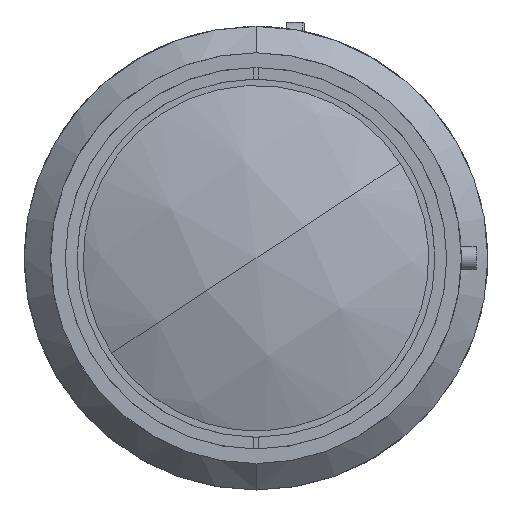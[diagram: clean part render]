
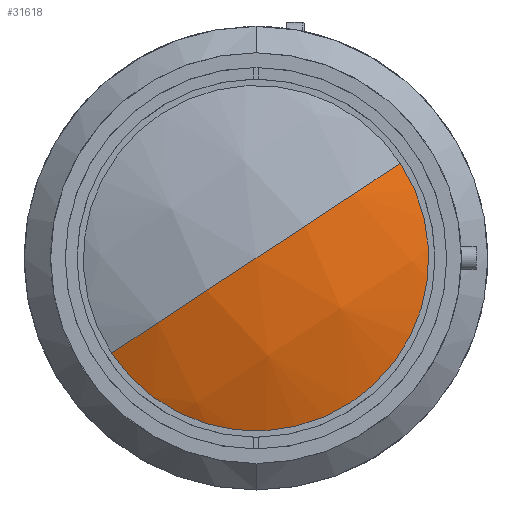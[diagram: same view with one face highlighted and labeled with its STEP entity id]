
A CAD part, left-side view. The second image highlights one B-rep face of the part: STEP entity #31618.
In plain terms, the highlighted spherical face has radius 77.627 mm.
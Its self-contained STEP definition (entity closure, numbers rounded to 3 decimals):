
#1102 = AXIS2_PLACEMENT_3D ( 'NONE', #15228, #38134, #18539 ) ;
#1106 = ORIENTED_EDGE ( 'NONE', *, *, #38791, .T. ) ;
#1253 = ORIENTED_EDGE ( 'NONE', *, *, #27639, .F. ) ;
#2253 = DIRECTION ( 'NONE',  ( 0., 0.836, -0.549 ) ) ;
#2314 = EDGE_CURVE ( 'NONE', #4496, #28689, #10935, .T. ) ;
#3455 = CIRCLE ( 'NONE', #7296, 77.627 ) ;
#4496 = VERTEX_POINT ( 'NONE', #32881 ) ;
#6474 = AXIS2_PLACEMENT_3D ( 'NONE', #41356, #41221, #41126 ) ;
#7296 = AXIS2_PLACEMENT_3D ( 'NONE', #41577, #22004, #2253 ) ;
#7762 = AXIS2_PLACEMENT_3D ( 'NONE', #10663, #33491, #33626 ) ;
#10663 = CARTESIAN_POINT ( 'NONE',  ( 78.627, 0., 0. ) ) ;
#10935 = CIRCLE ( 'NONE', #6474, 29.442 ) ;
#11186 = FACE_OUTER_BOUND ( 'NONE', #32604, .T. ) ;
#14415 = CIRCLE ( 'NONE', #1102, 77.627 ) ;
#15228 = CARTESIAN_POINT ( 'NONE',  ( 78.627, 0., 0. ) ) ;
#18539 = DIRECTION ( 'NONE',  ( 0., -0.836, 0.549 ) ) ;
#19542 = VERTEX_POINT ( 'NONE', #29952 ) ;
#22004 = DIRECTION ( 'NONE',  ( 0., -0.549, -0.836 ) ) ;
#25825 = CARTESIAN_POINT ( 'NONE',  ( 6.8, -24.603, 16.172 ) ) ;
#27639 = EDGE_CURVE ( 'NONE', #4496, #19542, #14415, .T. ) ;
#28321 = ORIENTED_EDGE ( 'NONE', *, *, #2314, .T. ) ;
#28689 = VERTEX_POINT ( 'NONE', #25825 ) ;
#28751 = SPHERICAL_SURFACE ( 'NONE', #7762, 77.627 ) ;
#29952 = CARTESIAN_POINT ( 'NONE',  ( 1., 0., 0. ) ) ;
#31618 = ADVANCED_FACE ( 'NONE', ( #11186 ), #28751, .T. ) ;
#32604 = EDGE_LOOP ( 'NONE', ( #1253, #28321, #1106 ) ) ;
#32881 = CARTESIAN_POINT ( 'NONE',  ( 6.8, 24.603, -16.172 ) ) ;
#33491 = DIRECTION ( 'NONE',  ( 0., 0.549, 0.836 ) ) ;
#33626 = DIRECTION ( 'NONE',  ( 0., -0.836, 0.549 ) ) ;
#38134 = DIRECTION ( 'NONE',  ( 0., 0.549, 0.836 ) ) ;
#38791 = EDGE_CURVE ( 'NONE', #28689, #19542, #3455, .T. ) ;
#41126 = DIRECTION ( 'NONE',  ( 0., 0., -1. ) ) ;
#41221 = DIRECTION ( 'NONE',  ( -1., 0., 0. ) ) ;
#41356 = CARTESIAN_POINT ( 'NONE',  ( 6.8, 0., 0. ) ) ;
#41577 = CARTESIAN_POINT ( 'NONE',  ( 78.627, 0., 0. ) ) ;
